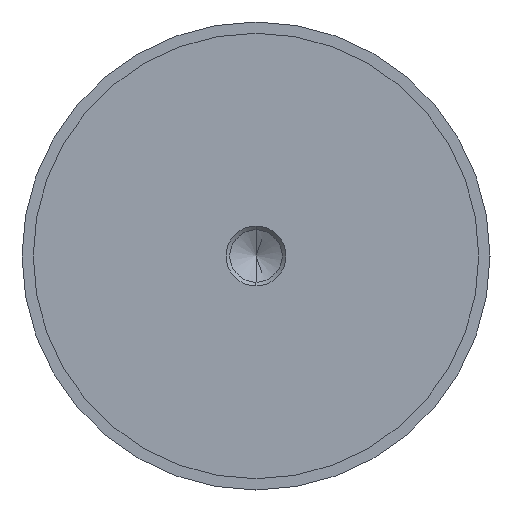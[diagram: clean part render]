
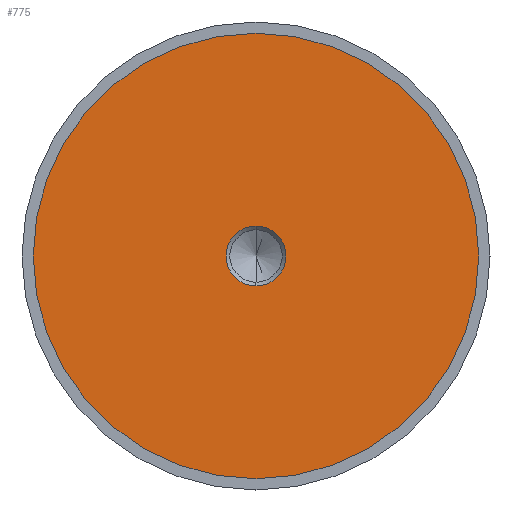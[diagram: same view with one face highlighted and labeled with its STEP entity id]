
A CAD part, left-side view. The second image highlights one B-rep face of the part: STEP entity #775.
In plain terms, the highlighted planar face has unit normal (-1, 0, 0).
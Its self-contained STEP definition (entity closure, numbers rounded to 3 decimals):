
#9 = DIRECTION ( 'NONE',  ( 0., 0., 1. ) ) ;
#18 = AXIS2_PLACEMENT_3D ( 'NONE', #196, #675, #88 ) ;
#22 = DIRECTION ( 'NONE',  ( 0., 0., -1. ) ) ;
#23 = VERTEX_POINT ( 'NONE', #351 ) ;
#42 = DIRECTION ( 'NONE',  ( 1., 0., 0. ) ) ;
#57 = CIRCLE ( 'NONE', #399, 7.99 ) ;
#77 = CARTESIAN_POINT ( 'NONE',  ( -37.49, 59.5, 0. ) ) ;
#88 = DIRECTION ( 'NONE',  ( 0., 0., 1. ) ) ;
#134 = VERTEX_POINT ( 'NONE', #753 ) ;
#171 = DIRECTION ( 'NONE',  ( 0., 0., -1. ) ) ;
#186 = AXIS2_PLACEMENT_3D ( 'NONE', #468, #418, #296 ) ;
#196 = CARTESIAN_POINT ( 'NONE',  ( -37.49, 0., 0. ) ) ;
#207 = PLANE ( 'NONE',  #557 ) ;
#209 = CIRCLE ( 'NONE', #186, 7.99 ) ;
#232 = EDGE_LOOP ( 'NONE', ( #269, #345 ) ) ;
#269 = ORIENTED_EDGE ( 'NONE', *, *, #515, .T. ) ;
#288 = AXIS2_PLACEMENT_3D ( 'NONE', #431, #672, #9 ) ;
#289 = EDGE_LOOP ( 'NONE', ( #378, #496 ) ) ;
#296 = DIRECTION ( 'NONE',  ( 0., 0., -1. ) ) ;
#301 = EDGE_CURVE ( 'NONE', #639, #134, #57, .T. ) ;
#335 = CARTESIAN_POINT ( 'NONE',  ( -37.49, 0., -59.5 ) ) ;
#342 = CIRCLE ( 'NONE', #18, 59.5 ) ;
#345 = ORIENTED_EDGE ( 'NONE', *, *, #301, .T. ) ;
#351 = CARTESIAN_POINT ( 'NONE',  ( -37.49, 0., 59.5 ) ) ;
#360 = CARTESIAN_POINT ( 'NONE',  ( -37.49, 0., -7.99 ) ) ;
#378 = ORIENTED_EDGE ( 'NONE', *, *, #648, .T. ) ;
#380 = FACE_OUTER_BOUND ( 'NONE', #289, .T. ) ;
#399 = AXIS2_PLACEMENT_3D ( 'NONE', #526, #42, #171 ) ;
#401 = CIRCLE ( 'NONE', #288, 59.5 ) ;
#418 = DIRECTION ( 'NONE',  ( 1., 0., 0. ) ) ;
#420 = EDGE_CURVE ( 'NONE', #520, #23, #342, .T. ) ;
#431 = CARTESIAN_POINT ( 'NONE',  ( -37.49, 0., 0. ) ) ;
#468 = CARTESIAN_POINT ( 'NONE',  ( -37.49, 0., 0. ) ) ;
#496 = ORIENTED_EDGE ( 'NONE', *, *, #420, .T. ) ;
#515 = EDGE_CURVE ( 'NONE', #134, #639, #209, .T. ) ;
#520 = VERTEX_POINT ( 'NONE', #335 ) ;
#526 = CARTESIAN_POINT ( 'NONE',  ( -37.49, 0., 0. ) ) ;
#557 = AXIS2_PLACEMENT_3D ( 'NONE', #77, #572, #22 ) ;
#572 = DIRECTION ( 'NONE',  ( 1., 0., 0. ) ) ;
#639 = VERTEX_POINT ( 'NONE', #360 ) ;
#648 = EDGE_CURVE ( 'NONE', #23, #520, #401, .T. ) ;
#672 = DIRECTION ( 'NONE',  ( -1., 0., 0. ) ) ;
#675 = DIRECTION ( 'NONE',  ( -1., 0., 0. ) ) ;
#750 = FACE_BOUND ( 'NONE', #232, .T. ) ;
#753 = CARTESIAN_POINT ( 'NONE',  ( -37.49, 0., 7.99 ) ) ;
#775 = ADVANCED_FACE ( 'NONE', ( #750, #380 ), #207, .F. ) ;
